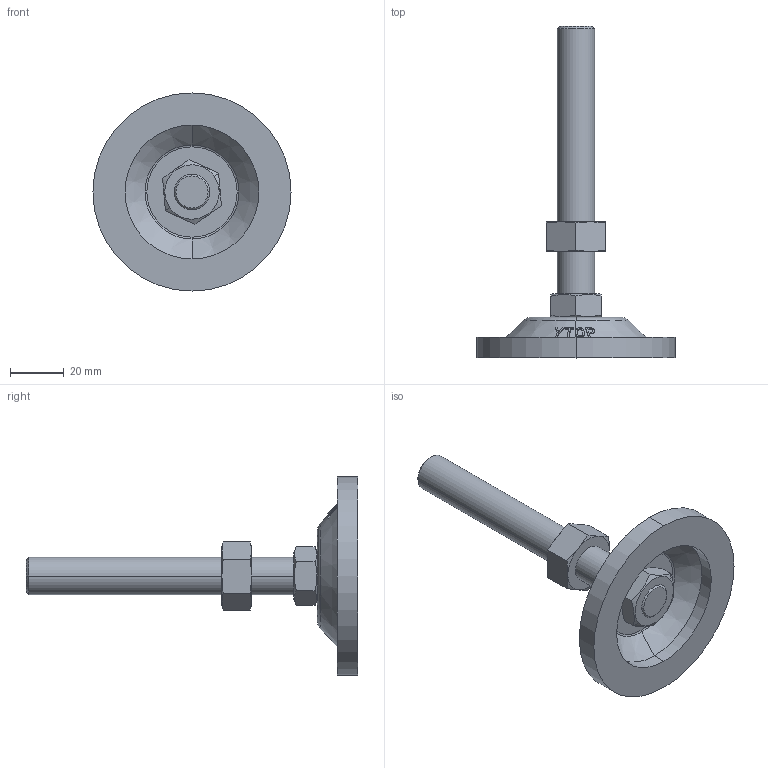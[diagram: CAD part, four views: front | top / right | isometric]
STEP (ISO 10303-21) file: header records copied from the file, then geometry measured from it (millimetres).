
FILE_DESCRIPTION (( 'STEP AP203' ), '1' );
FILE_NAME ('P-74-14100-BR.STEP', '2020-09-10T08:56:03', ( '' ), ( '' ), 'SwSTEP 2.0', 'SolidWorks 2016', '' );
FILE_SCHEMA (( 'CONFIG_CONTROL_DESIGN' ));
Length unit declared in the file: millimetre
Products named in the file (5): P-74-14100-BR; 脚垫调节六角螺母M14; hex thin nuts-grades ab-chamfered gb_GB_FASTENER_NUT_STNAB M14-N; P-74-1菁釱-3P; 傲郈蹟裝M14炵蹈_M14X100
Assembly tree (4 placements, depth 2):
  P-74-14100-BR
    P-74-1菁釱-3P
    傲郈蹟裝M14炵蹈_M14X100
    hex thin nuts-grades ab-chamfered gb_GB_FASTENER_NUT_STNAB M14-N
    脚垫调节六角螺母M14
Bounding box: 74 x 123.9 x 74 mm (x, y, z)
Volume: 48647.3 mm3; surface area: 28437.9 mm2
Topology: 5 solids, 5 shells, 148 faces, 341 edges, 214 vertices
Faces by surface type: cone 46, bspline 38, plane 34, cylinder 20, torus 10
Entity records: 8200 total; most frequent: CARTESIAN_POINT 4678, ORIENTED_EDGE 682, DIRECTION 509, EDGE_CURVE 341, AXIS2_PLACEMENT_3D 221, VERTEX_POINT 214, B_SPLINE_CURVE_WITH_KNOTS 170, EDGE_LOOP 167
